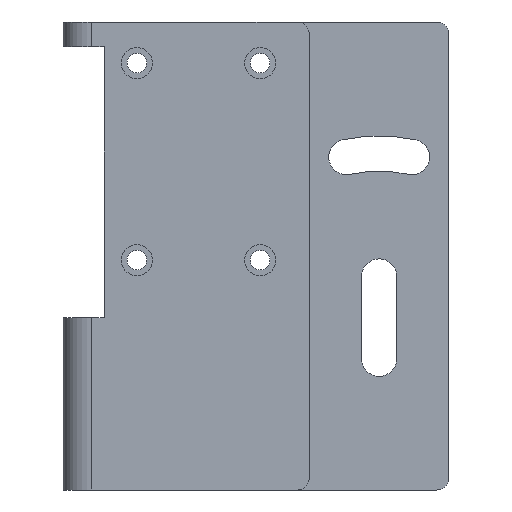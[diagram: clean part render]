
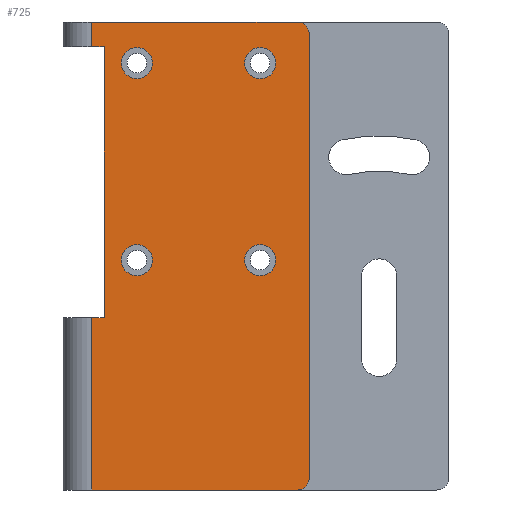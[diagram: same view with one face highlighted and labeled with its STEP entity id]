
A CAD part, front view. The second image highlights one B-rep face of the part: STEP entity #725.
In plain terms, the highlighted planar face has unit normal (0, -1, 0).
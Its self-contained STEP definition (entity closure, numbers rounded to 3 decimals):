
#141=CARTESIAN_POINT('',(25.3,1.65,17.));
#142=VERTEX_POINT('',#141);
#151=CARTESIAN_POINT('',(21.5,1.65,17.));
#152=VERTEX_POINT('',#151);
#153=CARTESIAN_POINT('',(23.4,1.65,17.));
#154=DIRECTION('',(0.0,1.0,0.0));
#155=DIRECTION('',(1.0,0.0,0.0));
#156=AXIS2_PLACEMENT_3D('',#153,#154,#155);
#157=CIRCLE('',#156,1.9);
#158=EDGE_CURVE('',#152,#142,#157,.T.);
#225=CARTESIAN_POINT('',(25.3,1.65,-7.));
#226=VERTEX_POINT('',#225);
#235=CARTESIAN_POINT('',(21.5,1.65,-7.));
#236=VERTEX_POINT('',#235);
#237=CARTESIAN_POINT('',(23.4,1.65,-7.));
#238=DIRECTION('',(0.0,1.0,0.0));
#239=DIRECTION('',(1.0,0.0,0.0));
#240=AXIS2_PLACEMENT_3D('',#237,#238,#239);
#241=CIRCLE('',#240,1.9);
#242=EDGE_CURVE('',#236,#226,#241,.T.);
#309=CARTESIAN_POINT('',(10.3,1.65,17.));
#310=VERTEX_POINT('',#309);
#319=CARTESIAN_POINT('',(6.5,1.65,17.));
#320=VERTEX_POINT('',#319);
#321=CARTESIAN_POINT('',(8.4,1.65,17.));
#322=DIRECTION('',(0.0,1.0,0.0));
#323=DIRECTION('',(1.0,0.0,0.0));
#324=AXIS2_PLACEMENT_3D('',#321,#322,#323);
#325=CIRCLE('',#324,1.9);
#326=EDGE_CURVE('',#320,#310,#325,.T.);
#351=CARTESIAN_POINT('',(10.3,1.65,-7.0));
#352=VERTEX_POINT('',#351);
#361=CARTESIAN_POINT('',(6.5,1.65,-7.0));
#362=VERTEX_POINT('',#361);
#363=CARTESIAN_POINT('',(8.4,1.65,-7.0));
#364=DIRECTION('',(0.0,1.0,0.0));
#365=DIRECTION('',(1.0,0.0,0.0));
#366=AXIS2_PLACEMENT_3D('',#363,#364,#365);
#367=CIRCLE('',#366,1.9);
#368=EDGE_CURVE('',#362,#352,#367,.T.);
#477=CARTESIAN_POINT('',(29.4,1.65,-33.5));
#478=VERTEX_POINT('',#477);
#479=CARTESIAN_POINT('',(27.9,1.65,-35.0));
#480=VERTEX_POINT('',#479);
#481=CARTESIAN_POINT('',(27.9,1.65,-33.5));
#482=DIRECTION('',(0.0,1.,0.0));
#483=DIRECTION('',(0.707,0.0,-0.707));
#484=AXIS2_PLACEMENT_3D('',#481,#482,#483);
#485=CIRCLE('',#484,1.5);
#486=EDGE_CURVE('',#478,#480,#485,.T.);
#520=CARTESIAN_POINT('',(2.9,1.65,-35.0));
#521=VERTEX_POINT('',#520);
#522=CARTESIAN_POINT('',(2.9,1.65,-35.0));
#523=DIRECTION('',(1.0,0.0,0.0));
#524=VECTOR('',#523,25.0);
#525=LINE('',#522,#524);
#526=EDGE_CURVE('',#521,#480,#525,.T.);
#613=CARTESIAN_POINT('',(29.4,1.65,-35.0));
#614=DIRECTION('',(0.0,-1.0,0.0));
#615=DIRECTION('',(0.0,0.0,-1.0));
#616=AXIS2_PLACEMENT_3D('',#613,#614,#615);
#617=PLANE('',#616);
#618=ORIENTED_EDGE('',*,*,#486,.F.);
#619=CARTESIAN_POINT('',(29.4,1.65,20.5));
#620=VERTEX_POINT('',#619);
#621=CARTESIAN_POINT('',(29.4,1.65,-33.5));
#622=DIRECTION('',(0.0,0.0,1.0));
#623=VECTOR('',#622,54.0);
#624=LINE('',#621,#623);
#625=EDGE_CURVE('',#478,#620,#624,.T.);
#626=ORIENTED_EDGE('',*,*,#625,.T.);
#627=CARTESIAN_POINT('',(27.9,1.65,22.0));
#628=VERTEX_POINT('',#627);
#629=CARTESIAN_POINT('',(27.9,1.65,20.5));
#630=DIRECTION('',(0.0,1.,0.0));
#631=DIRECTION('',(0.707,0.0,0.707));
#632=AXIS2_PLACEMENT_3D('',#629,#630,#631);
#633=CIRCLE('',#632,1.5);
#634=EDGE_CURVE('',#628,#620,#633,.T.);
#635=ORIENTED_EDGE('',*,*,#634,.F.);
#636=CARTESIAN_POINT('',(2.9,1.65,22.0));
#637=VERTEX_POINT('',#636);
#638=CARTESIAN_POINT('',(27.9,1.65,22.0));
#639=DIRECTION('',(-1.0,0.0,0.0));
#640=VECTOR('',#639,25.0);
#641=LINE('',#638,#640);
#642=EDGE_CURVE('',#628,#637,#641,.T.);
#643=ORIENTED_EDGE('',*,*,#642,.T.);
#644=CARTESIAN_POINT('',(2.9,1.65,19.0));
#645=VERTEX_POINT('',#644);
#646=CARTESIAN_POINT('',(2.9,1.65,19.0));
#647=DIRECTION('',(0.0,0.0,1.0));
#648=VECTOR('',#647,3.0);
#649=LINE('',#646,#648);
#650=EDGE_CURVE('',#645,#637,#649,.T.);
#651=ORIENTED_EDGE('',*,*,#650,.F.);
#652=CARTESIAN_POINT('',(4.4,1.65,19.0));
#653=VERTEX_POINT('',#652);
#654=CARTESIAN_POINT('',(2.9,1.65,19.0));
#655=DIRECTION('',(1.0,0.0,0.0));
#656=VECTOR('',#655,1.5);
#657=LINE('',#654,#656);
#658=EDGE_CURVE('',#645,#653,#657,.T.);
#659=ORIENTED_EDGE('',*,*,#658,.T.);
#660=CARTESIAN_POINT('',(4.4,1.65,-14.0));
#661=VERTEX_POINT('',#660);
#662=CARTESIAN_POINT('',(4.4,1.65,19.0));
#663=DIRECTION('',(0.0,0.0,-1.0));
#664=VECTOR('',#663,33.0);
#665=LINE('',#662,#664);
#666=EDGE_CURVE('',#653,#661,#665,.T.);
#667=ORIENTED_EDGE('',*,*,#666,.T.);
#668=CARTESIAN_POINT('',(2.9,1.65,-14.0));
#669=VERTEX_POINT('',#668);
#670=CARTESIAN_POINT('',(4.4,1.65,-14.0));
#671=DIRECTION('',(-1.0,0.0,0.0));
#672=VECTOR('',#671,1.5);
#673=LINE('',#670,#672);
#674=EDGE_CURVE('',#661,#669,#673,.T.);
#675=ORIENTED_EDGE('',*,*,#674,.T.);
#676=CARTESIAN_POINT('',(2.9,1.65,-35.0));
#677=DIRECTION('',(0.0,0.0,1.0));
#678=VECTOR('',#677,21.0);
#679=LINE('',#676,#678);
#680=EDGE_CURVE('',#521,#669,#679,.T.);
#681=ORIENTED_EDGE('',*,*,#680,.F.);
#682=ORIENTED_EDGE('',*,*,#526,.T.);
#683=EDGE_LOOP('',(#618,#626,#635,#643,#651,#659,#667,#675,#681,#682));
#684=FACE_OUTER_BOUND('',#683,.T.);
#685=CARTESIAN_POINT('',(8.4,1.65,-7.0));
#686=DIRECTION('',(0.0,1.0,0.0));
#687=DIRECTION('',(1.0,0.0,0.0));
#688=AXIS2_PLACEMENT_3D('',#685,#686,#687);
#689=CIRCLE('',#688,1.9);
#690=EDGE_CURVE('',#352,#362,#689,.T.);
#691=ORIENTED_EDGE('',*,*,#690,.T.);
#692=ORIENTED_EDGE('',*,*,#368,.T.);
#693=EDGE_LOOP('',(#691,#692));
#694=FACE_BOUND('',#693,.T.);
#695=CARTESIAN_POINT('',(8.4,1.65,17.));
#696=DIRECTION('',(0.0,1.0,0.0));
#697=DIRECTION('',(1.0,0.0,0.0));
#698=AXIS2_PLACEMENT_3D('',#695,#696,#697);
#699=CIRCLE('',#698,1.9);
#700=EDGE_CURVE('',#310,#320,#699,.T.);
#701=ORIENTED_EDGE('',*,*,#700,.T.);
#702=ORIENTED_EDGE('',*,*,#326,.T.);
#703=EDGE_LOOP('',(#701,#702));
#704=FACE_BOUND('',#703,.T.);
#705=CARTESIAN_POINT('',(23.4,1.65,-7.));
#706=DIRECTION('',(0.0,1.0,0.0));
#707=DIRECTION('',(1.0,0.0,0.0));
#708=AXIS2_PLACEMENT_3D('',#705,#706,#707);
#709=CIRCLE('',#708,1.9);
#710=EDGE_CURVE('',#226,#236,#709,.T.);
#711=ORIENTED_EDGE('',*,*,#710,.T.);
#712=ORIENTED_EDGE('',*,*,#242,.T.);
#713=EDGE_LOOP('',(#711,#712));
#714=FACE_BOUND('',#713,.T.);
#715=CARTESIAN_POINT('',(23.4,1.65,17.));
#716=DIRECTION('',(0.0,1.0,0.0));
#717=DIRECTION('',(1.0,0.0,0.0));
#718=AXIS2_PLACEMENT_3D('',#715,#716,#717);
#719=CIRCLE('',#718,1.9);
#720=EDGE_CURVE('',#142,#152,#719,.T.);
#721=ORIENTED_EDGE('',*,*,#720,.T.);
#722=ORIENTED_EDGE('',*,*,#158,.T.);
#723=EDGE_LOOP('',(#721,#722));
#724=FACE_BOUND('',#723,.T.);
#725=ADVANCED_FACE('',(#684,#694,#704,#714,#724),#617,.T.);
